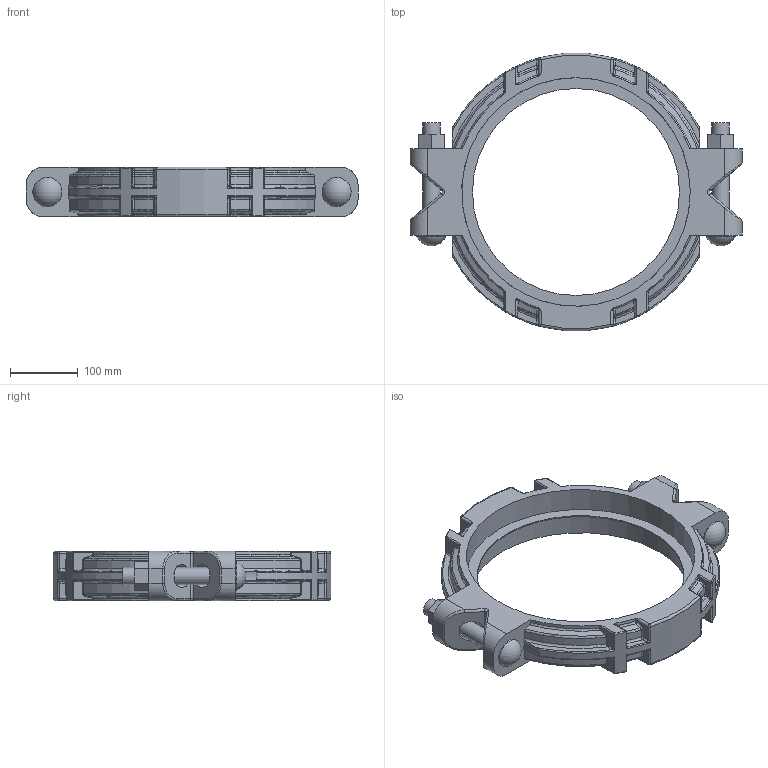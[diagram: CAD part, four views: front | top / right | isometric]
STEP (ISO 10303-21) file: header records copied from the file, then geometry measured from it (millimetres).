
FILE_DESCRIPTION(/* description */ ('VIC COUPLING FLEXIBLE STYLE XL77','CAx-IF Rec.Pracs.---Representation and Presentation of Product Manufacturing Information (PMI)---4.0---2014-10-13'),/* implementation_level */ '2;1');
FILE_NAME(/* name */ 'C:\Users\kkamble\AppData\Roaming\Autodesk\ApplicationPlugins\Back Up\Victaulic_IPS-XL_Coupling Flexible Transition_Style XL77 (XLGxOGS)\Victaulic_IPS-XL_Coupling Flexible Transition_Style XL77 (XLGxOGS)_12 (300).stp',/* time_stamp */ '2020-08-05T13:48:54+05:00',/* author */ ('jheald'),/* organization */ ('Victaulic'),/* preprocessor_version */ 'ST-DEVELOPER v17.2',/* originating_system */ 'Autodesk Inventor 2019',/* authorisation */ '');
FILE_SCHEMA (('AP242_MANAGED_MODEL_BASED_3D_ENGINEERING_MIM_LF { 1 0 10303 442 1 1 4 }'));
Length unit declared in the file: inch
Products named in the file (1): XL77-12.0
Bounding box: 488.72 x 408.19 x 73.15 mm (x, y, z)
Volume: 3279548.3 mm3; surface area: 362009.1 mm2
Topology: 1 solids, 1 shells, 579 faces, 1382 edges, 793 vertices
Faces by surface type: cylinder 193, bspline 156, torus 88, plane 84, sphere 42, cone 16
Full cylindrical faces by diameter (mm): 25.4 x4, 42.85 x2, 304.8 x1, 323.85 x1, 336.55 x1
Entity records: 22518 total; most frequent: CARTESIAN_POINT 9394, ORIENTED_EDGE 2716, DIRECTION 2457, EDGE_CURVE 1358, AXIS2_PLACEMENT_3D 1034, VERTEX_POINT 793, EDGE_LOOP 597, STYLED_ITEM 581
